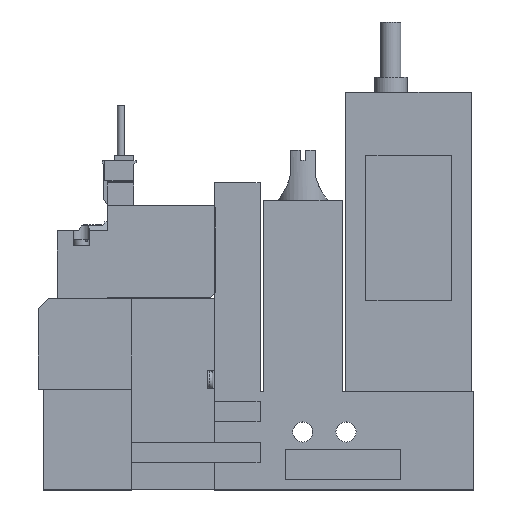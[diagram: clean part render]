
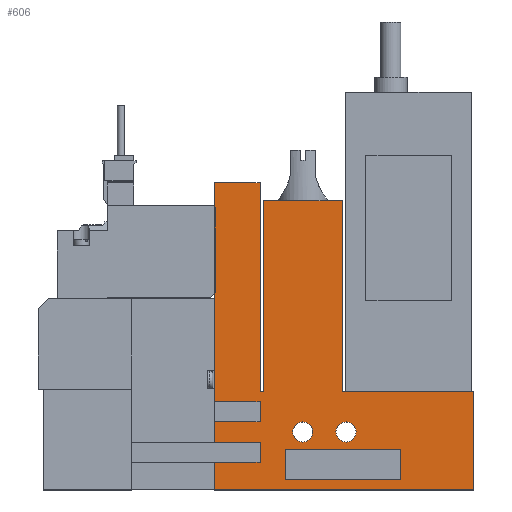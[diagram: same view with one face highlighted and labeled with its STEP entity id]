
A CAD part, top view. The second image highlights one B-rep face of the part: STEP entity #606.
In plain terms, the highlighted planar face has unit normal (0, 0, 1).
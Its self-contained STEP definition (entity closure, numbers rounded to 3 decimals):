
#606=ADVANCED_FACE('',(#1293,#1294,#1295,#1296),#1297,.T.);
#1293=FACE_OUTER_BOUND('',#2091,.T.);
#1294=FACE_BOUND('',#2092,.T.);
#1295=FACE_BOUND('',#2093,.T.);
#1296=FACE_BOUND('',#2094,.T.);
#1297=PLANE('',#2095);
#2091=EDGE_LOOP('',(#4560,#4561,#4562,#4563,#4564,#4565,#4566,#4567,#4568,#4569,#4570,#4571,#4572,#4573,#4574,#4575,#4576,#4577));
#2092=EDGE_LOOP('',(#4578,#4579,#4580,#4581));
#2093=EDGE_LOOP('',(#4582));
#2094=EDGE_LOOP('',(#4583));
#2095=AXIS2_PLACEMENT_3D('',#4584,#4585,#4586);
#4560=ORIENTED_EDGE('',*,*,#5957,.T.);
#4561=ORIENTED_EDGE('',*,*,#5958,.T.);
#4562=ORIENTED_EDGE('',*,*,#5959,.T.);
#4563=ORIENTED_EDGE('',*,*,#5960,.T.);
#4564=ORIENTED_EDGE('',*,*,#5961,.T.);
#4565=ORIENTED_EDGE('',*,*,#5962,.T.);
#4566=ORIENTED_EDGE('',*,*,#5912,.T.);
#4567=ORIENTED_EDGE('',*,*,#5963,.T.);
#4568=ORIENTED_EDGE('',*,*,#5964,.T.);
#4569=ORIENTED_EDGE('',*,*,#5965,.T.);
#4570=ORIENTED_EDGE('',*,*,#5966,.T.);
#4571=ORIENTED_EDGE('',*,*,#5967,.T.);
#4572=ORIENTED_EDGE('',*,*,#5968,.T.);
#4573=ORIENTED_EDGE('',*,*,#5906,.T.);
#4574=ORIENTED_EDGE('',*,*,#5969,.T.);
#4575=ORIENTED_EDGE('',*,*,#5970,.T.);
#4576=ORIENTED_EDGE('',*,*,#5971,.T.);
#4577=ORIENTED_EDGE('',*,*,#5972,.T.);
#4578=ORIENTED_EDGE('',*,*,#5931,.T.);
#4579=ORIENTED_EDGE('',*,*,#5973,.T.);
#4580=ORIENTED_EDGE('',*,*,#5939,.T.);
#4581=ORIENTED_EDGE('',*,*,#5948,.T.);
#4582=ORIENTED_EDGE('',*,*,#5974,.T.);
#4583=ORIENTED_EDGE('',*,*,#5975,.T.);
#4584=CARTESIAN_POINT('',(0.0,0.0,10.0));
#4585=DIRECTION('',(0.0,0.0,1.0));
#4586=DIRECTION('',(1.0,0.0,0.0));
#5906=EDGE_CURVE('',#7314,#7312,#7315,.T.);
#5912=EDGE_CURVE('',#7318,#7323,#7325,.T.);
#5931=EDGE_CURVE('',#7352,#7357,#7359,.T.);
#5939=EDGE_CURVE('',#7368,#7373,#7375,.T.);
#5948=EDGE_CURVE('',#7373,#7352,#7389,.T.);
#5957=EDGE_CURVE('',#7404,#7405,#7406,.T.);
#5958=EDGE_CURVE('',#7405,#7407,#7408,.T.);
#5959=EDGE_CURVE('',#7407,#7409,#7410,.T.);
#5960=EDGE_CURVE('',#7409,#7411,#7412,.T.);
#5961=EDGE_CURVE('',#7411,#7413,#7414,.T.);
#5962=EDGE_CURVE('',#7413,#7318,#7415,.T.);
#5963=EDGE_CURVE('',#7323,#7416,#7417,.T.);
#5964=EDGE_CURVE('',#7416,#7418,#7419,.T.);
#5965=EDGE_CURVE('',#7418,#7420,#7421,.T.);
#5966=EDGE_CURVE('',#7420,#7422,#7423,.T.);
#5967=EDGE_CURVE('',#7422,#7424,#7425,.T.);
#5968=EDGE_CURVE('',#7424,#7314,#7426,.T.);
#5969=EDGE_CURVE('',#7312,#7427,#7428,.T.);
#5970=EDGE_CURVE('',#7427,#7429,#7430,.T.);
#5971=EDGE_CURVE('',#7429,#7431,#7432,.T.);
#5972=EDGE_CURVE('',#7431,#7404,#7433,.T.);
#5973=EDGE_CURVE('',#7357,#7368,#7434,.T.);
#5974=EDGE_CURVE('',#7435,#7435,#7436,.T.);
#5975=EDGE_CURVE('',#7437,#7437,#7438,.T.);
#7312=VERTEX_POINT('',#9526);
#7314=VERTEX_POINT('',#9529);
#7315=LINE('',#9530,#9531);
#7318=VERTEX_POINT('',#9535);
#7323=VERTEX_POINT('',#9542);
#7325=LINE('',#9545,#9546);
#7352=VERTEX_POINT('',#9586);
#7357=VERTEX_POINT('',#9593);
#7359=LINE('',#9596,#9597);
#7368=VERTEX_POINT('',#9610);
#7373=VERTEX_POINT('',#9617);
#7375=LINE('',#9620,#9621);
#7389=LINE('',#9663,#9664);
#7404=VERTEX_POINT('',#9687);
#7405=VERTEX_POINT('',#9688);
#7406=LINE('',#9689,#9690);
#7407=VERTEX_POINT('',#9691);
#7408=LINE('',#9692,#9693);
#7409=VERTEX_POINT('',#9694);
#7410=LINE('',#9695,#9696);
#7411=VERTEX_POINT('',#9697);
#7412=LINE('',#9698,#9699);
#7413=VERTEX_POINT('',#9700);
#7414=LINE('',#9701,#9702);
#7415=LINE('',#9703,#9704);
#7416=VERTEX_POINT('',#9705);
#7417=LINE('',#9706,#9707);
#7418=VERTEX_POINT('',#9708);
#7419=LINE('',#9709,#9710);
#7420=VERTEX_POINT('',#9711);
#7421=LINE('',#9712,#9713);
#7422=VERTEX_POINT('',#9714);
#7423=LINE('',#9715,#9716);
#7424=VERTEX_POINT('',#9717);
#7425=LINE('',#9718,#9719);
#7426=LINE('',#9720,#9721);
#7427=VERTEX_POINT('',#9722);
#7428=LINE('',#9723,#9724);
#7429=VERTEX_POINT('',#9725);
#7430=LINE('',#9726,#9727);
#7431=VERTEX_POINT('',#9728);
#7432=LINE('',#9729,#9730);
#7433=LINE('',#9731,#9732);
#7434=LINE('',#9733,#9734);
#7435=VERTEX_POINT('',#9735);
#7436=CIRCLE('',#9736,2.0);
#7437=VERTEX_POINT('',#9737);
#7438=CIRCLE('',#9738,2.0);
#9526=CARTESIAN_POINT('',(44.75,57.5,10.0));
#9529=CARTESIAN_POINT('',(60.45,57.5,10.0));
#9530=CARTESIAN_POINT('',(60.45,57.5,10.0));
#9531=VECTOR('',#10946,1.0);
#9535=CARTESIAN_POINT('',(44.1,9.5,10.0));
#9542=CARTESIAN_POINT('',(44.1,5.5,10.0));
#9545=CARTESIAN_POINT('',(44.1,0.0,10.0));
#9546=VECTOR('',#10954,1.0);
#9586=CARTESIAN_POINT('',(49.1,2.0,10.0));
#9593=CARTESIAN_POINT('',(49.1,8.0,10.0));
#9596=CARTESIAN_POINT('',(49.1,0.0,10.0));
#9597=VECTOR('',#10977,1.0);
#9610=CARTESIAN_POINT('',(72.1,8.0,10.0));
#9617=CARTESIAN_POINT('',(72.1,2.0,10.0));
#9620=CARTESIAN_POINT('',(72.1,0.0,10.0));
#9621=VECTOR('',#10985,1.0);
#9663=CARTESIAN_POINT('',(0.0,2.0,10.0));
#9664=VECTOR('',#10997,1.0);
#9687=CARTESIAN_POINT('',(35.1,61.0,10.0));
#9688=CARTESIAN_POINT('',(35.1,17.5,10.0));
#9689=CARTESIAN_POINT('',(35.1,61.0,10.0));
#9690=VECTOR('',#11006,1.0);
#9691=CARTESIAN_POINT('',(44.1,17.5,10.0));
#9692=CARTESIAN_POINT('',(0.0,17.5,10.0));
#9693=VECTOR('',#11007,1.0);
#9694=CARTESIAN_POINT('',(44.1,13.5,10.0));
#9695=CARTESIAN_POINT('',(44.1,0.0,10.0));
#9696=VECTOR('',#11008,1.0);
#9697=CARTESIAN_POINT('',(35.1,13.5,10.0));
#9698=CARTESIAN_POINT('',(0.0,13.5,10.0));
#9699=VECTOR('',#11009,1.0);
#9700=CARTESIAN_POINT('',(35.1,9.5,10.0));
#9701=CARTESIAN_POINT('',(35.1,0.0,10.0));
#9702=VECTOR('',#11010,1.0);
#9703=CARTESIAN_POINT('',(0.0,9.5,10.0));
#9704=VECTOR('',#11011,1.0);
#9705=CARTESIAN_POINT('',(35.1,5.5,10.0));
#9706=CARTESIAN_POINT('',(0.0,5.5,10.0));
#9707=VECTOR('',#11012,1.0);
#9708=CARTESIAN_POINT('',(35.1,0.0,10.0));
#9709=CARTESIAN_POINT('',(35.1,0.0,10.0));
#9710=VECTOR('',#11013,1.0);
#9711=CARTESIAN_POINT('',(86.6,0.0,10.0));
#9712=CARTESIAN_POINT('',(18.6,0.0,10.0));
#9713=VECTOR('',#11014,1.0);
#9714=CARTESIAN_POINT('',(86.6,19.5,10.0));
#9715=CARTESIAN_POINT('',(86.6,0.0,10.0));
#9716=VECTOR('',#11015,1.0);
#9717=CARTESIAN_POINT('',(60.45,19.5,10.0));
#9718=CARTESIAN_POINT('',(86.6,19.5,10.0));
#9719=VECTOR('',#11016,1.0);
#9720=CARTESIAN_POINT('',(60.45,19.5,10.0));
#9721=VECTOR('',#11017,1.0);
#9722=CARTESIAN_POINT('',(44.75,19.5,10.0));
#9723=CARTESIAN_POINT('',(44.75,57.5,10.0));
#9724=VECTOR('',#11018,1.0);
#9725=CARTESIAN_POINT('',(44.1,19.5,10.0));
#9726=CARTESIAN_POINT('',(44.75,19.5,10.0));
#9727=VECTOR('',#11019,1.0);
#9728=CARTESIAN_POINT('',(44.1,61.0,10.0));
#9729=CARTESIAN_POINT('',(44.1,19.5,10.0));
#9730=VECTOR('',#11020,1.0);
#9731=CARTESIAN_POINT('',(44.1,61.0,10.0));
#9732=VECTOR('',#11021,1.0);
#9733=CARTESIAN_POINT('',(0.0,8.0,10.0));
#9734=VECTOR('',#11022,1.0);
#9735=CARTESIAN_POINT('',(54.6,11.5,10.0));
#9736=AXIS2_PLACEMENT_3D('',#11023,#11024,#11025);
#9737=CARTESIAN_POINT('',(63.2,11.5,10.0));
#9738=AXIS2_PLACEMENT_3D('',#11026,#11027,#11028);
#10946=DIRECTION('',(-1.0,0.0,0.0));
#10954=DIRECTION('',(0.0,-1.0,0.0));
#10977=DIRECTION('',(0.0,1.0,0.0));
#10985=DIRECTION('',(0.0,-1.0,0.0));
#10997=DIRECTION('',(-1.0,0.0,0.0));
#11006=DIRECTION('',(0.0,-1.0,0.0));
#11007=DIRECTION('',(1.0,0.0,0.0));
#11008=DIRECTION('',(0.0,-1.0,0.0));
#11009=DIRECTION('',(-1.0,0.0,0.0));
#11010=DIRECTION('',(0.0,-1.0,0.0));
#11011=DIRECTION('',(1.0,0.0,0.0));
#11012=DIRECTION('',(-1.0,0.0,0.0));
#11013=DIRECTION('',(0.0,-1.0,0.0));
#11014=DIRECTION('',(1.0,0.0,0.0));
#11015=DIRECTION('',(0.0,1.0,0.0));
#11016=DIRECTION('',(-1.0,0.0,0.0));
#11017=DIRECTION('',(0.0,1.0,0.0));
#11018=DIRECTION('',(0.0,-1.0,0.0));
#11019=DIRECTION('',(-1.0,0.0,0.0));
#11020=DIRECTION('',(0.0,1.0,0.0));
#11021=DIRECTION('',(-1.0,0.0,0.0));
#11022=DIRECTION('',(1.0,0.0,0.0));
#11023=CARTESIAN_POINT('',(52.6,11.5,10.0));
#11024=DIRECTION('',(0.0,0.0,-1.0));
#11025=DIRECTION('',(1.0,0.0,0.0));
#11026=CARTESIAN_POINT('',(61.2,11.5,10.0));
#11027=DIRECTION('',(0.0,0.0,-1.0));
#11028=DIRECTION('',(1.0,0.0,0.0));
